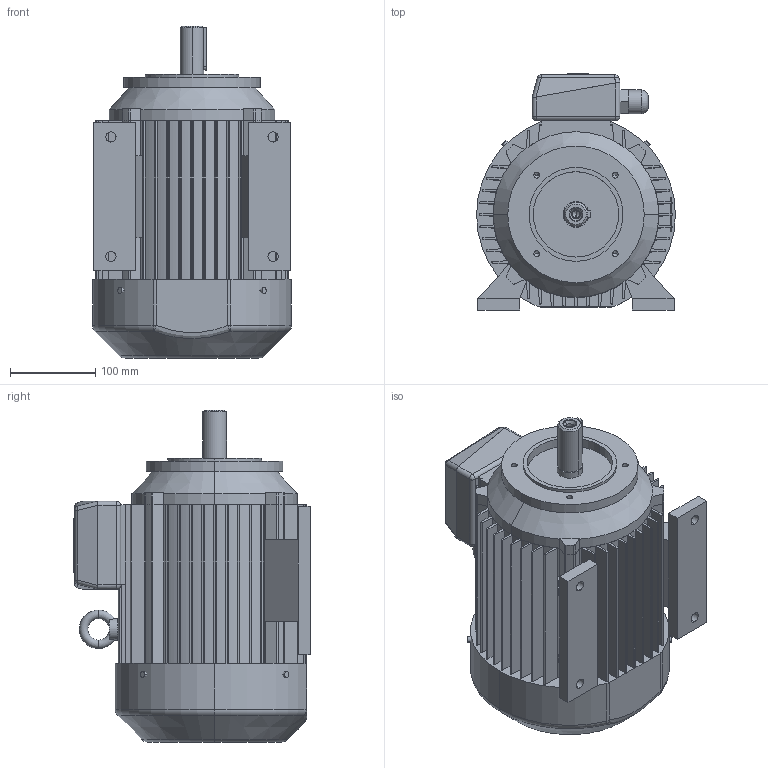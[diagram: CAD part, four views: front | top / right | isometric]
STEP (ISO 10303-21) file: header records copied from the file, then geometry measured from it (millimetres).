
FILE_DESCRIPTION (( 'STEP AP203' ), '1' );
FILE_NAME ('2SIEL112M2,6-B34-C2.STEP', '2014-02-04T12:10:34', ( 'INDUKTA' ), ( 'CANTONI MOTOR' ), 'SwSTEP 2.0', 'SolidWorks 2003064', '' );
FILE_SCHEMA (( 'CONFIG_CONTROL_DESIGN' ));
Length unit declared in the file: millimetre
Products named in the file (1): 2SIEL112M2,6-B34-C2
Bounding box: 233 x 277 x 389 mm (x, y, z)
Volume: 11863577.5 mm3; surface area: 750429.1 mm2
Topology: 14 solids, 14 shells, 588 faces, 1552 edges, 991 vertices
Faces by surface type: plane 295, cylinder 209, cone 60, torus 13, sphere 10, bspline 1
Entity records: 18972 total; most frequent: CARTESIAN_POINT 4142, DIRECTION 3159, ORIENTED_EDGE 3064, EDGE_CURVE 1532, AXIS2_PLACEMENT_3D 1103, VERTEX_POINT 991, LINE 953, VECTOR 953
